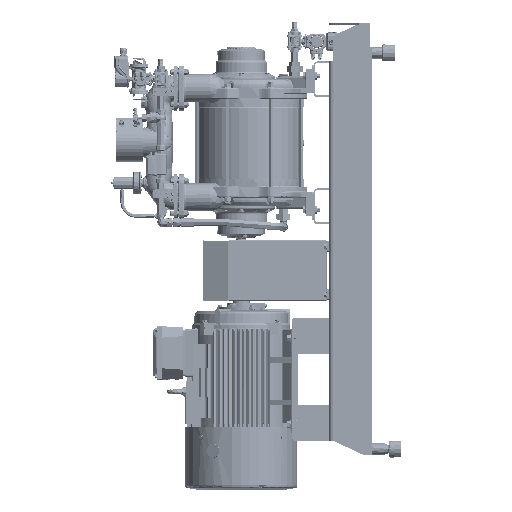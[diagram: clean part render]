
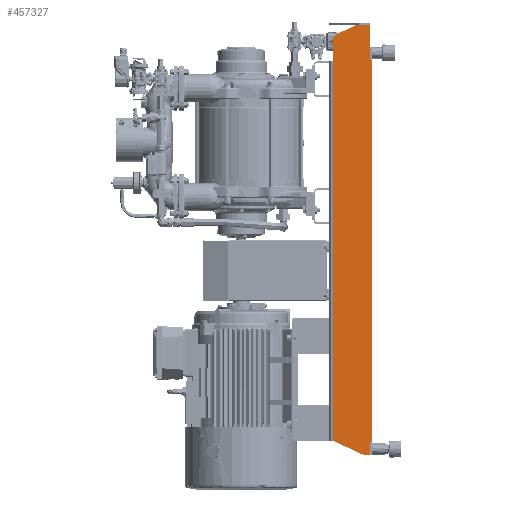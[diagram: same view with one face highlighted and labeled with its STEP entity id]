
A CAD part, left-side view. The second image highlights one B-rep face of the part: STEP entity #457327.
In plain terms, the highlighted planar face has unit normal (-1, 0, 0).
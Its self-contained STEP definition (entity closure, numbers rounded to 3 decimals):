
#29530=PLANE('',#487578);
#52300=FACE_OUTER_BOUND('',#78851,.T.);
#78851=EDGE_LOOP('',(#340519,#340520,#340521,#340522,#340523,#340524,#340525,
#340526,#340527,#340528,#340529,#340530));
#109863=LINE('',#850285,#144147);
#110536=LINE('',#852425,#144820);
#110537=LINE('',#852427,#144821);
#110538=LINE('',#852428,#144822);
#110539=LINE('',#852430,#144823);
#110540=LINE('',#852433,#144824);
#110541=LINE('',#852434,#144825);
#110542=LINE('',#852436,#144826);
#110543=LINE('',#852438,#144827);
#110544=LINE('',#852440,#144828);
#110545=LINE('',#852441,#144829);
#144147=VECTOR('',#553508,10.);
#144820=VECTOR('',#555335,10.);
#144821=VECTOR('',#555336,10.);
#144822=VECTOR('',#555337,10.);
#144823=VECTOR('',#555338,10.);
#144824=VECTOR('',#555341,10.);
#144825=VECTOR('',#555342,10.);
#144826=VECTOR('',#555343,10.);
#144827=VECTOR('',#555344,10.);
#144828=VECTOR('',#555345,10.);
#144829=VECTOR('',#555346,10.);
#170858=CIRCLE('',#487579,25.);
#197157=VERTEX_POINT('',#850282);
#197158=VERTEX_POINT('',#850284);
#197772=VERTEX_POINT('',#852402);
#197773=VERTEX_POINT('',#852409);
#197777=VERTEX_POINT('',#852423);
#197778=VERTEX_POINT('',#852424);
#197779=VERTEX_POINT('',#852426);
#197780=VERTEX_POINT('',#852429);
#197781=VERTEX_POINT('',#852431);
#197782=VERTEX_POINT('',#852435);
#197783=VERTEX_POINT('',#852437);
#197784=VERTEX_POINT('',#852439);
#248018=EDGE_CURVE('',#197157,#197158,#109863,.T.);
#249015=EDGE_CURVE('',#197777,#197778,#110536,.T.);
#249016=EDGE_CURVE('',#197777,#197779,#110537,.T.);
#249017=EDGE_CURVE('',#197158,#197779,#110538,.T.);
#249018=EDGE_CURVE('',#197780,#197157,#110539,.T.);
#249019=EDGE_CURVE('',#197781,#197780,#170858,.T.);
#249020=EDGE_CURVE('',#197772,#197781,#110540,.T.);
#249021=EDGE_CURVE('',#197772,#197773,#110541,.T.);
#249022=EDGE_CURVE('',#197782,#197773,#110542,.T.);
#249023=EDGE_CURVE('',#197783,#197782,#110543,.T.);
#249024=EDGE_CURVE('',#197783,#197784,#110544,.T.);
#249025=EDGE_CURVE('',#197784,#197778,#110545,.T.);
#340519=ORIENTED_EDGE('',*,*,#249015,.F.);
#340520=ORIENTED_EDGE('',*,*,#249016,.T.);
#340521=ORIENTED_EDGE('',*,*,#249017,.F.);
#340522=ORIENTED_EDGE('',*,*,#248018,.F.);
#340523=ORIENTED_EDGE('',*,*,#249018,.F.);
#340524=ORIENTED_EDGE('',*,*,#249019,.F.);
#340525=ORIENTED_EDGE('',*,*,#249020,.F.);
#340526=ORIENTED_EDGE('',*,*,#249021,.T.);
#340527=ORIENTED_EDGE('',*,*,#249022,.F.);
#340528=ORIENTED_EDGE('',*,*,#249023,.F.);
#340529=ORIENTED_EDGE('',*,*,#249024,.T.);
#340530=ORIENTED_EDGE('',*,*,#249025,.T.);
#457327=ADVANCED_FACE('',(#52300),#29530,.T.);
#487578=AXIS2_PLACEMENT_3D('',#852422,#555333,#555334);
#487579=AXIS2_PLACEMENT_3D('',#852432,#555339,#555340);
#553508=DIRECTION('',(0.,-1.,0.));
#555333=DIRECTION('center_axis',(-1.,0.,0.));
#555334=DIRECTION('ref_axis',(0.,0.,
-1.));
#555335=DIRECTION('',(0.,0.,-1.));
#555336=DIRECTION('',(0.,1.,0.));
#555337=DIRECTION('',(0.,0.,-1.));
#555338=DIRECTION('',(0.,-0.906,0.423));
#555339=DIRECTION('center_axis',(1.,0.,0.));
#555340=DIRECTION('ref_axis',(0.,0.843,0.537));
#555341=DIRECTION('',(0.,0.,1.));
#555342=DIRECTION('',(0.,0.,-1.));
#555343=DIRECTION('',(0.,0.906,0.423));
#555344=DIRECTION('',(0.,1.,0.));
#555345=DIRECTION('',(0.,0.,1.));
#555346=DIRECTION('',(0.,-1.,0.));
#850282=CARTESIAN_POINT('',(-254.,-3.804,728.25));
#850284=CARTESIAN_POINT('',(-254.,-49.,728.25));
#850285=CARTESIAN_POINT('',(-254.,-3.804,728.25));
#852402=CARTESIAN_POINT('',(-254.,83.,598.25));
#852409=CARTESIAN_POINT('',(-254.,83.,-738.75));
#852422=CARTESIAN_POINT('Origin',(-254.,348.586,-195.5));
#852423=CARTESIAN_POINT('',(-254.,-55.,604.25));
#852424=CARTESIAN_POINT('',(-254.,-55.,-744.75));
#852425=CARTESIAN_POINT('',(-254.,-55.,-989.25));
#852426=CARTESIAN_POINT('',(-254.,-49.,604.25));
#852427=CARTESIAN_POINT('',(-254.,146.793,604.25));
#852428=CARTESIAN_POINT('',(-254.,-49.,728.25));
#852429=CARTESIAN_POINT('',(-254.,68.565,694.504));
#852430=CARTESIAN_POINT('',(-254.,83.,687.773));
#852431=CARTESIAN_POINT('',(-254.,83.,671.846));
#852432=CARTESIAN_POINT('Origin',(-254.,58.,671.846));
#852433=CARTESIAN_POINT('',(-254.,83.,598.25));
#852434=CARTESIAN_POINT('',(-254.,83.,-195.5));
#852435=CARTESIAN_POINT('',(-254.,-24.225,-788.75));
#852436=CARTESIAN_POINT('',(-254.,-24.225,-788.75));
#852437=CARTESIAN_POINT('',(-254.,-49.,-788.75));
#852438=CARTESIAN_POINT('',(-254.,-55.,-788.75));
#852439=CARTESIAN_POINT('',(-254.,-49.,-744.75));
#852440=CARTESIAN_POINT('',(-254.,-49.,-495.875));
#852441=CARTESIAN_POINT('',(-254.,146.793,-744.75));
